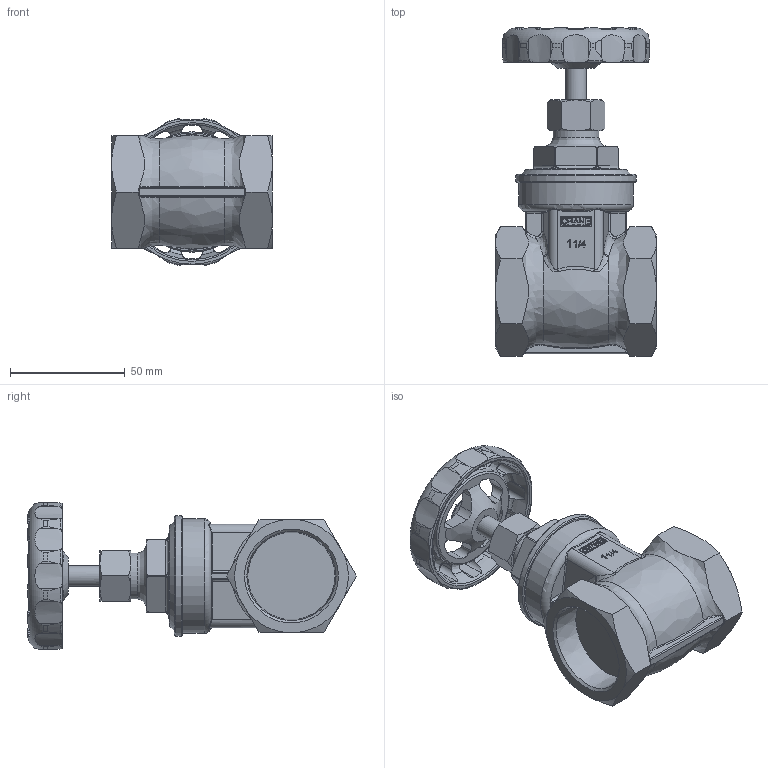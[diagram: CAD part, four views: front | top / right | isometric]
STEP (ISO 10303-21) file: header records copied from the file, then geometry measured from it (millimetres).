
FILE_DESCRIPTION((''),'2;1');
FILE_NAME('P:\Fastrack\53972_CRANE 3D\Gate Valves\Work Space\Handwheel\D151_1 1-4in\D151_1 1-4in.stp','2011-03-11T10:36:39',('btaylor'),(''),'Autodesk Inventor 2008','Autodesk Inventor 2008','');
FILE_SCHEMA(('AUTOMOTIVE_DESIGN { 1 0 10303 214 1 1 1 1 }'));
Length unit declared in the file: millimetre
Products named in the file (1): D151_1 1-4in
Bounding box: 69.9 x 143.29 x 63.82 mm (x, y, z)
Volume: 195029.9 mm3; surface area: 40638.4 mm2
Topology: 1 solids, 1 shells, 723 faces, 2041 edges, 1327 vertices
Faces by surface type: plane 316, cylinder 189, bspline 161, cone 42, torus 15
Full cylindrical faces by diameter (mm): 6.007 x2, 9 x1, 20 x1, 21 x1, 50 x1, 52.5 x1
Entity records: 33420 total; most frequent: CARTESIAN_POINT 15833, ORIENTED_EDGE 3980, DIRECTION 2746, EDGE_CURVE 1990, VERTEX_POINT 1315, AXIS2_PLACEMENT_3D 922, VECTOR 902, LINE 902
